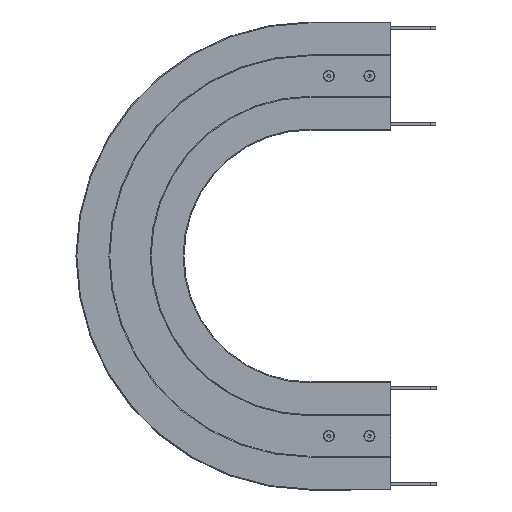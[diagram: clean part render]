
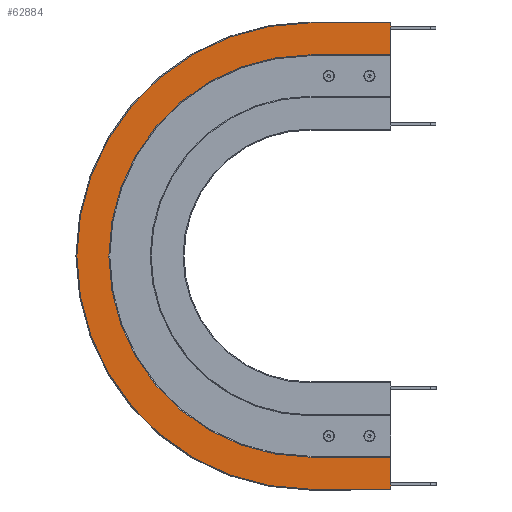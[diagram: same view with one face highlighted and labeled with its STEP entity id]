
A CAD part, front view. The second image highlights one B-rep face of the part: STEP entity #62884.
In plain terms, the highlighted planar face has unit normal (0, -1, 0).
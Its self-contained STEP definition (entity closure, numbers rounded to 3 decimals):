
#4776 = CARTESIAN_POINT ( 'NONE',  ( 471.838, -101., 483.5 ) ) ;
#4783 = DIRECTION ( 'NONE',  ( 1., 0., 0. ) ) ;
#4799 = DIRECTION ( 'NONE',  ( 0., 0., 1. ) ) ;
#4801 = CARTESIAN_POINT ( 'NONE',  ( 471.838, -101., 520. ) ) ;
#16759 = FACE_OUTER_BOUND ( 'NONE', #50753, .T. ) ;
#20967 = ORIENTED_EDGE ( 'NONE', *, *, #59650, .T. ) ;
#20969 = ORIENTED_EDGE ( 'NONE', *, *, #39894, .T. ) ;
#20971 = ORIENTED_EDGE ( 'NONE', *, *, #39886, .T. ) ;
#20973 = ORIENTED_EDGE ( 'NONE', *, *, #39890, .F. ) ;
#20975 = ORIENTED_EDGE ( 'NONE', *, *, #39878, .T. ) ;
#20977 = ORIENTED_EDGE ( 'NONE', *, *, #39969, .T. ) ;
#20979 = ORIENTED_EDGE ( 'NONE', *, *, #39875, .T. ) ;
#20981 = ORIENTED_EDGE ( 'NONE', *, *, #39882, .T. ) ;
#20983 = ORIENTED_EDGE ( 'NONE', *, *, #59686, .T. ) ;
#26719 = CARTESIAN_POINT ( 'NONE',  ( 381.838, -101., 36.5 ) ) ;
#26723 = CARTESIAN_POINT ( 'NONE',  ( 471.838, -101., 36.5 ) ) ;
#26724 = CARTESIAN_POINT ( 'NONE',  ( 471.838, -101., 519. ) ) ;
#26726 = CARTESIAN_POINT ( 'NONE',  ( 471.838, -101., 1. ) ) ;
#26727 = CARTESIAN_POINT ( 'NONE',  ( 381.838, -101., 519. ) ) ;
#26746 = CARTESIAN_POINT ( 'NONE',  ( 381.838, -101., 483.5 ) ) ;
#26862 = CARTESIAN_POINT ( 'NONE',  ( 471.838, -101., 483.5 ) ) ;
#30172 = AXIS2_PLACEMENT_3D ( 'NONE', #46655, #46657, #46659 ) ;
#30178 = AXIS2_PLACEMENT_3D ( 'NONE', #46792, #46794, #46796 ) ;
#30197 = AXIS2_PLACEMENT_3D ( 'NONE', #41757, #41760, #41763 ) ;
#38082 = LINE ( 'NONE', #4776, #38091 ) ;
#38091 = VECTOR ( 'NONE', #4783, 1000. ) ;
#38109 = LINE ( 'NONE', #4801, #38111 ) ;
#38111 = VECTOR ( 'NONE', #4799, 1000. ) ;
#39398 = VERTEX_POINT ( 'NONE', #48209 ) ;
#39410 = VERTEX_POINT ( 'NONE', #48232 ) ;
#39875 = EDGE_CURVE ( 'NONE', #67692, #39398, #49287, .T. ) ;
#39878 = EDGE_CURVE ( 'NONE', #39410, #67690, #49291, .T. ) ;
#39882 = EDGE_CURVE ( 'NONE', #67686, #67692, #49299, .T. ) ;
#39886 = EDGE_CURVE ( 'NONE', #67684, #67676, #49304, .T. ) ;
#39890 = EDGE_CURVE ( 'NONE', #67684, #67690, #49312, .T. ) ;
#39894 = EDGE_CURVE ( 'NONE', #67676, #67730, #49311, .T. ) ;
#39969 = EDGE_CURVE ( 'NONE', #39398, #39410, #49451, .T. ) ;
#41757 = CARTESIAN_POINT ( 'NONE',  ( 381.838, -101., 260. ) ) ;
#41760 = DIRECTION ( 'NONE',  ( 0., -1., 0. ) ) ;
#41763 = DIRECTION ( 'NONE',  ( 1., 0., 0. ) ) ;
#46629 = DIRECTION ( 'NONE',  ( -1., 0., 0. ) ) ;
#46655 = CARTESIAN_POINT ( 'NONE',  ( 381.838, -101., 260. ) ) ;
#46657 = DIRECTION ( 'NONE',  ( 0., -1., 0. ) ) ;
#46659 = DIRECTION ( 'NONE',  ( 1., 0., 0. ) ) ;
#46675 = CARTESIAN_POINT ( 'NONE',  ( 381.838, -101., 1. ) ) ;
#46680 = DIRECTION ( 'NONE',  ( 1., 0., 0. ) ) ;
#46692 = CARTESIAN_POINT ( 'NONE',  ( 381.838, -101., 519. ) ) ;
#46722 = DIRECTION ( 'NONE',  ( -1., 0., 0. ) ) ;
#46734 = CARTESIAN_POINT ( 'NONE',  ( 381.838, -101., 36.5 ) ) ;
#46767 = CARTESIAN_POINT ( 'NONE',  ( 471.838, -101., 0. ) ) ;
#46770 = DIRECTION ( 'NONE',  ( 0., 0., -1. ) ) ;
#46792 = CARTESIAN_POINT ( 'NONE',  ( 381.838, -101., 260. ) ) ;
#46794 = DIRECTION ( 'NONE',  ( 0., 1., 0. ) ) ;
#46796 = DIRECTION ( 'NONE',  ( 1., 0., 0. ) ) ;
#48209 = CARTESIAN_POINT ( 'NONE',  ( 122.838, -101., 260. ) ) ;
#48232 = CARTESIAN_POINT ( 'NONE',  ( 381.838, -101., 1. ) ) ;
#49287 = CIRCLE ( 'NONE', #30172, 259. ) ;
#49291 = LINE ( 'NONE', #46675, #49294 ) ;
#49294 = VECTOR ( 'NONE', #46680, 1000. ) ;
#49299 = LINE ( 'NONE', #46692, #49301 ) ;
#49301 = VECTOR ( 'NONE', #46629, 1000. ) ;
#49304 = LINE ( 'NONE', #46734, #49308 ) ;
#49308 = VECTOR ( 'NONE', #46722, 1000. ) ;
#49311 = CIRCLE ( 'NONE', #30178, 223.5 ) ;
#49312 = LINE ( 'NONE', #46767, #49315 ) ;
#49315 = VECTOR ( 'NONE', #46770, 1000. ) ;
#49451 = CIRCLE ( 'NONE', #30197, 259. ) ;
#50753 = EDGE_LOOP ( 'NONE', ( #20983, #20981, #20979, #20977, #20975, #20973, #20971, #20969, #20967 ) ) ;
#52408 = AXIS2_PLACEMENT_3D ( 'NONE', #69756, #69761, #69762 ) ;
#59650 = EDGE_CURVE ( 'NONE', #67730, #67962, #38082, .T. ) ;
#59686 = EDGE_CURVE ( 'NONE', #67962, #67686, #38109, .T. ) ;
#62884 = ADVANCED_FACE ( 'NONE', ( #16759 ), #69759, .T. ) ;
#67676 = VERTEX_POINT ( 'NONE', #26719 ) ;
#67684 = VERTEX_POINT ( 'NONE', #26723 ) ;
#67686 = VERTEX_POINT ( 'NONE', #26724 ) ;
#67690 = VERTEX_POINT ( 'NONE', #26726 ) ;
#67692 = VERTEX_POINT ( 'NONE', #26727 ) ;
#67730 = VERTEX_POINT ( 'NONE', #26746 ) ;
#67962 = VERTEX_POINT ( 'NONE', #26862 ) ;
#69756 = CARTESIAN_POINT ( 'NONE',  ( 381.838, -101., 0. ) ) ;
#69759 = PLANE ( 'NONE',  #52408 ) ;
#69761 = DIRECTION ( 'NONE',  ( 0., -1., 0. ) ) ;
#69762 = DIRECTION ( 'NONE',  ( 1., 0., 0. ) ) ;
